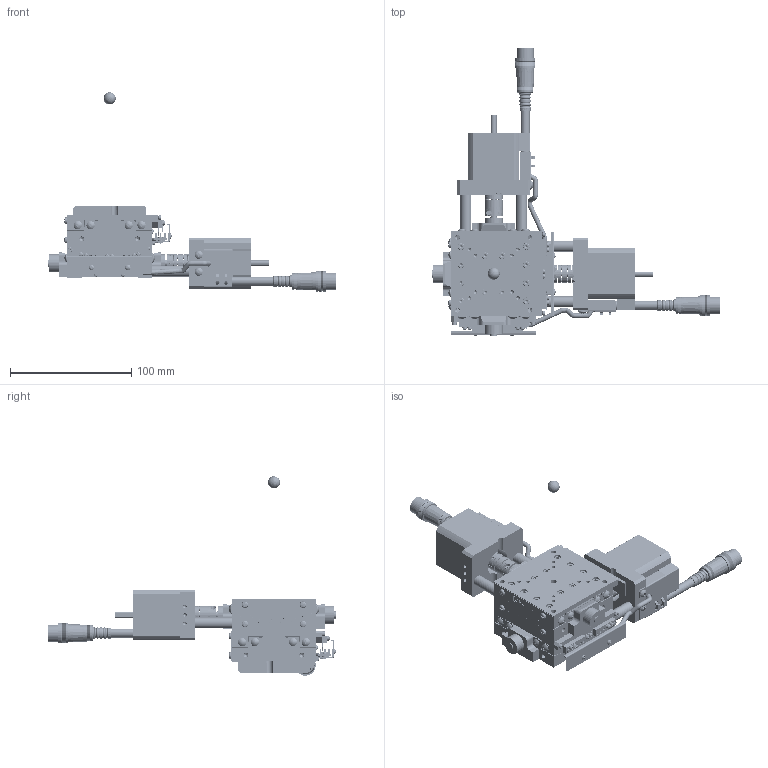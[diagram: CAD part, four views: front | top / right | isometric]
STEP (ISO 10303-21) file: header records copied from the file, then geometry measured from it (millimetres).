
FILE_DESCRIPTION (( 'STEP AP203' ), '1' );
FILE_NAME ('SA07A-RL02-RRR.STEP', '2019-02-27T04:07:47', ( '' ), ( '' ), 'SwSTEP 2.0', 'SolidWorks 2018', '' );
FILE_SCHEMA (( 'CONFIG_CONTROL_DESIGN' ));
Length unit declared in the file: millimetre
Products named in the file (11): second table-Part-2; base-Part-1; second table-Part-1; base; base-Part-3; second table-Part-3; SA07A-RL02-RRR; rotation center; base-Part-2; table; second table
Assembly tree (10 placements, depth 3):
  SA07A-RL02-RRR
    second table
      second table-Part-1
      second table-Part-2
      second table-Part-3
    base
      base-Part-1
      base-Part-2
      base-Part-3
    table
    rotation center
Bounding box: 238 x 237.68 x 164.65 mm (x, y, z)
Volume: 503056.2 mm3; surface area: 146109.1 mm2
Topology: 8 solids, 8 shells, 5371 faces, 13643 edges, 8491 vertices
Faces by surface type: plane 3193, cylinder 1348, cone 576, torus 148, sphere 94, bspline 12
Entity records: 164824 total; most frequent: CARTESIAN_POINT 31668, DIRECTION 28640, ORIENTED_EDGE 26876, EDGE_CURVE 13438, AXIS2_PLACEMENT_3D 10107, VERTEX_POINT 8476, LINE 8426, VECTOR 8426
